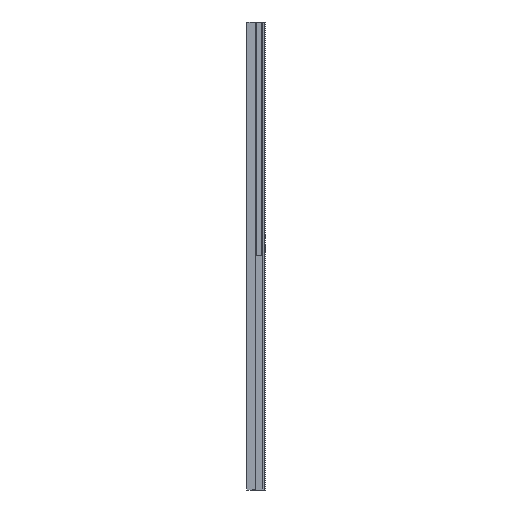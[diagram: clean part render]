
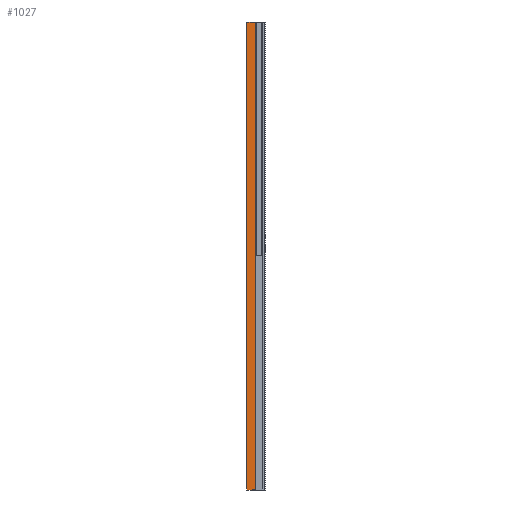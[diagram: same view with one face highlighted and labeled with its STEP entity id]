
A CAD part, left-side view. The second image highlights one B-rep face of the part: STEP entity #1027.
In plain terms, the highlighted planar face has unit normal (-1, 0, 0).
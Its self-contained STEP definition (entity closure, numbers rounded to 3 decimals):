
#72 = PLANE ( 'NONE',  #705 ) ;
#110 = LINE ( 'NONE', #833, #767 ) ;
#148 = LINE ( 'NONE', #1250, #715 ) ;
#192 = FACE_OUTER_BOUND ( 'NONE', #565, .T. ) ;
#278 = DIRECTION ( 'NONE',  ( 0., -1., 0. ) ) ;
#298 = CARTESIAN_POINT ( 'NONE',  ( 0., 1., 0. ) ) ;
#324 = DIRECTION ( 'NONE',  ( 0., 0., -1. ) ) ;
#365 = VERTEX_POINT ( 'NONE', #742 ) ;
#453 = VECTOR ( 'NONE', #915, 1000. ) ;
#464 = EDGE_CURVE ( 'NONE', #672, #365, #790, .T. ) ;
#490 = VERTEX_POINT ( 'NONE', #650 ) ;
#521 = CARTESIAN_POINT ( 'NONE',  ( 0., 38.1, 0. ) ) ;
#555 = LINE ( 'NONE', #959, #860 ) ;
#565 = EDGE_LOOP ( 'NONE', ( #681, #1526, #1084, #1207 ) ) ;
#650 = CARTESIAN_POINT ( 'NONE',  ( 0., 1., 2000. ) ) ;
#657 = VERTEX_POINT ( 'NONE', #1459 ) ;
#672 = VERTEX_POINT ( 'NONE', #521 ) ;
#681 = ORIENTED_EDGE ( 'NONE', *, *, #464, .T. ) ;
#705 = AXIS2_PLACEMENT_3D ( 'NONE', #1172, #1055, #324 ) ;
#715 = VECTOR ( 'NONE', #278, 1000. ) ;
#742 = CARTESIAN_POINT ( 'NONE',  ( 0., 1., 0. ) ) ;
#767 = VECTOR ( 'NONE', #1558, 1000. ) ;
#790 = LINE ( 'NONE', #298, #453 ) ;
#800 = EDGE_CURVE ( 'NONE', #657, #490, #148, .T. ) ;
#833 = CARTESIAN_POINT ( 'NONE',  ( 0., 1., 2000. ) ) ;
#860 = VECTOR ( 'NONE', #1299, 1000. ) ;
#915 = DIRECTION ( 'NONE',  ( 0., -1., 0. ) ) ;
#959 = CARTESIAN_POINT ( 'NONE',  ( 0., 38.1, 2000. ) ) ;
#1027 = ADVANCED_FACE ( 'NONE', ( #192 ), #72, .F. ) ;
#1055 = DIRECTION ( 'NONE',  ( 1., 0., 0. ) ) ;
#1061 = EDGE_CURVE ( 'NONE', #657, #672, #555, .T. ) ;
#1084 = ORIENTED_EDGE ( 'NONE', *, *, #800, .F. ) ;
#1172 = CARTESIAN_POINT ( 'NONE',  ( 0., 1., 2000. ) ) ;
#1207 = ORIENTED_EDGE ( 'NONE', *, *, #1061, .T. ) ;
#1250 = CARTESIAN_POINT ( 'NONE',  ( 0., 1., 2000. ) ) ;
#1299 = DIRECTION ( 'NONE',  ( 0., 0., -1. ) ) ;
#1459 = CARTESIAN_POINT ( 'NONE',  ( 0., 38.1, 2000. ) ) ;
#1526 = ORIENTED_EDGE ( 'NONE', *, *, #1547, .F. ) ;
#1547 = EDGE_CURVE ( 'NONE', #490, #365, #110, .T. ) ;
#1558 = DIRECTION ( 'NONE',  ( 0., 0., -1. ) ) ;
